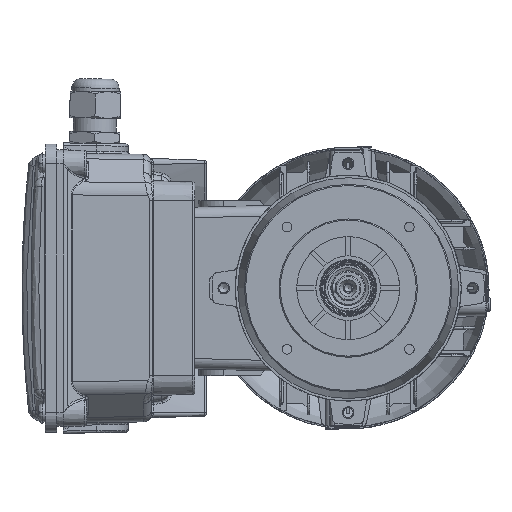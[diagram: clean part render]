
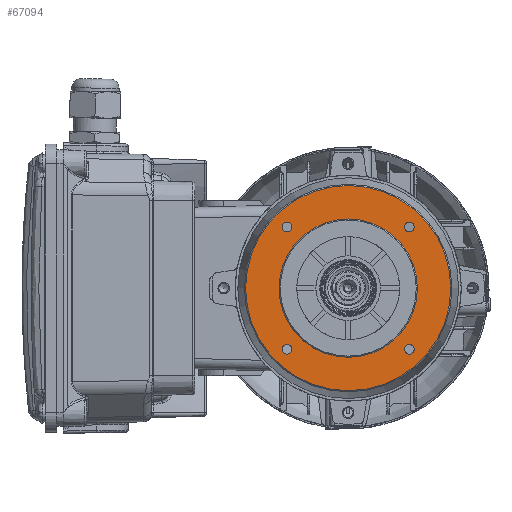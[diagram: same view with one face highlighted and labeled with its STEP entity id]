
A CAD part, left-side view. The second image highlights one B-rep face of the part: STEP entity #67094.
In plain terms, the highlighted planar face has unit normal (-1, 0, 0).
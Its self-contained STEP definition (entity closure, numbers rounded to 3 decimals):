
#4705=PLANE('',#71709);
#5944=FACE_BOUND('',#11432,.T.);
#5945=FACE_BOUND('',#11433,.T.);
#5946=FACE_BOUND('',#11434,.T.);
#5947=FACE_BOUND('',#11435,.T.);
#5948=FACE_BOUND('',#11436,.T.);
#7341=FACE_OUTER_BOUND('',#11431,.T.);
#11431=EDGE_LOOP('',(#48987));
#11432=EDGE_LOOP('',(#48988));
#11433=EDGE_LOOP('',(#48989));
#11434=EDGE_LOOP('',(#48990));
#11435=EDGE_LOOP('',(#48991));
#11436=EDGE_LOOP('',(#48992));
#14974=CIRCLE('',#70907,2.1);
#14976=CIRCLE('',#70910,2.1);
#14978=CIRCLE('',#70913,2.1);
#14980=CIRCLE('',#70916,2.1);
#14984=CIRCLE('',#70922,44.5);
#15015=CIRCLE('',#70961,30.);
#29454=VERTEX_POINT('',#100157);
#29456=VERTEX_POINT('',#100163);
#29458=VERTEX_POINT('',#100169);
#29460=VERTEX_POINT('',#100175);
#29464=VERTEX_POINT('',#100187);
#29513=VERTEX_POINT('',#100300);
#36091=EDGE_CURVE('',#29454,#29454,#14974,.T.);
#36094=EDGE_CURVE('',#29456,#29456,#14976,.T.);
#36097=EDGE_CURVE('',#29458,#29458,#14978,.T.);
#36100=EDGE_CURVE('',#29460,#29460,#14980,.T.);
#36106=EDGE_CURVE('',#29464,#29464,#14984,.T.);
#36162=EDGE_CURVE('',#29513,#29513,#15015,.T.);
#48987=ORIENTED_EDGE('',*,*,#36106,.T.);
#48988=ORIENTED_EDGE('',*,*,#36162,.F.);
#48989=ORIENTED_EDGE('',*,*,#36091,.F.);
#48990=ORIENTED_EDGE('',*,*,#36094,.F.);
#48991=ORIENTED_EDGE('',*,*,#36097,.F.);
#48992=ORIENTED_EDGE('',*,*,#36100,.F.);
#67094=ADVANCED_FACE('',(#7341,#5944,#5945,#5946,#5947,#5948),#4705,.T.);
#70907=AXIS2_PLACEMENT_3D('',#100159,#79448,#79449);
#70910=AXIS2_PLACEMENT_3D('',#100165,#79455,#79456);
#70913=AXIS2_PLACEMENT_3D('',#100171,#79462,#79463);
#70916=AXIS2_PLACEMENT_3D('',#100177,#79469,#79470);
#70922=AXIS2_PLACEMENT_3D('',#100189,#79483,#79484);
#70961=AXIS2_PLACEMENT_3D('',#100302,#79586,#79587);
#71709=AXIS2_PLACEMENT_3D('',#105329,#81370,#81371);
#79448=DIRECTION('center_axis',(-1.,0.,0.));
#79449=DIRECTION('ref_axis',(0.,0.,1.));
#79455=DIRECTION('center_axis',(-1.,0.,0.));
#79456=DIRECTION('ref_axis',(0.,0.,1.));
#79462=DIRECTION('center_axis',(-1.,0.,0.));
#79463=DIRECTION('ref_axis',(0.,0.,1.));
#79469=DIRECTION('center_axis',(-1.,0.,0.));
#79470=DIRECTION('ref_axis',(0.,0.,1.));
#79483=DIRECTION('center_axis',(-1.,0.,0.));
#79484=DIRECTION('ref_axis',(0.,0.,1.));
#79586=DIRECTION('center_axis',(-1.,0.,0.));
#79587=DIRECTION('ref_axis',(0.,0.,1.));
#81370=DIRECTION('center_axis',(-1.,0.,0.));
#81371=DIRECTION('ref_axis',(0.,0.,1.));
#100157=CARTESIAN_POINT('',(-81.,26.517,-28.617));
#100159=CARTESIAN_POINT('Origin',(-81.,26.517,-26.517));
#100163=CARTESIAN_POINT('',(-81.,-26.517,-28.617));
#100165=CARTESIAN_POINT('Origin',(-81.,-26.517,-26.517));
#100169=CARTESIAN_POINT('',(-81.,-26.517,24.417));
#100171=CARTESIAN_POINT('Origin',(-81.,-26.517,26.517));
#100175=CARTESIAN_POINT('',(-81.,26.517,24.417));
#100177=CARTESIAN_POINT('Origin',(-81.,26.517,26.517));
#100187=CARTESIAN_POINT('',(-81.,0.,44.5));
#100189=CARTESIAN_POINT('Origin',(-81.,0.,0.));
#100300=CARTESIAN_POINT('',(-81.,0.,-30.));
#100302=CARTESIAN_POINT('Origin',(-81.,0.,0.));
#105329=CARTESIAN_POINT('Origin',(-81.,45.,0.));
